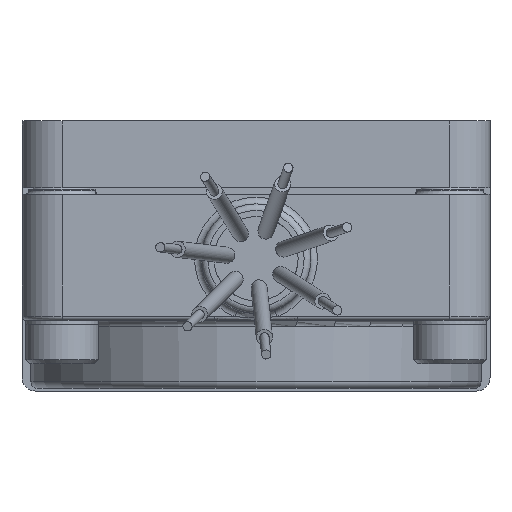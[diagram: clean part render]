
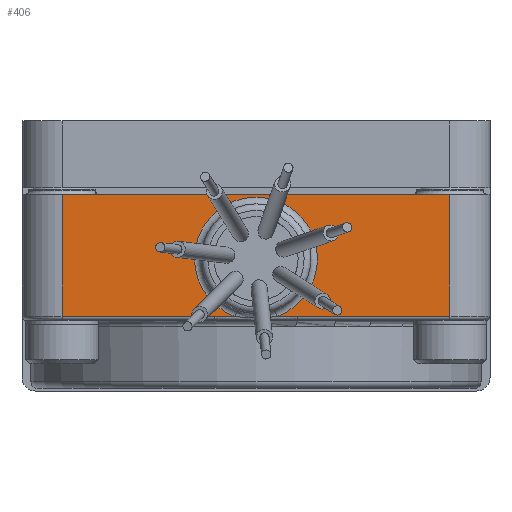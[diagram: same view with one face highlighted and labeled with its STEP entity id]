
A CAD part, front view. The second image highlights one B-rep face of the part: STEP entity #406.
In plain terms, the highlighted planar face has unit normal (0, -1, 0).
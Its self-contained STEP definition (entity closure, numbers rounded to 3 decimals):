
#406=ADVANCED_FACE('NONE',(#1032),#1033,.F.);
#1032=FACE_OUTER_BOUND('',#2222,.T.);
#1033=PLANE('',#2223);
#2222=EDGE_LOOP('',(#3635,#3636,#3637,#3638,#3639,#3640,#3641,#3642));
#2223=AXIS2_PLACEMENT_3D('',#3643,#3644,#3645);
#3635=ORIENTED_EDGE('',*,*,#5204,.T.);
#3636=ORIENTED_EDGE('',*,*,#5389,.T.);
#3637=ORIENTED_EDGE('',*,*,#5202,.T.);
#3638=ORIENTED_EDGE('',*,*,#5353,.T.);
#3639=ORIENTED_EDGE('',*,*,#5430,.T.);
#3640=ORIENTED_EDGE('',*,*,#5431,.F.);
#3641=ORIENTED_EDGE('',*,*,#5432,.T.);
#3642=ORIENTED_EDGE('',*,*,#5433,.T.);
#3643=CARTESIAN_POINT('',(17.5,-47.5,8.0));
#3644=DIRECTION('',(-0.0,1.0,0.0));
#3645=DIRECTION('',(1.0,0.0,0.0));
#5202=EDGE_CURVE('NONE',#5966,#5967,#5968,.T.);
#5204=EDGE_CURVE('NONE',#5971,#5969,#5972,.T.);
#5353=EDGE_CURVE('NONE',#5967,#6217,#6219,.T.);
#5389=EDGE_CURVE('NONE',#5969,#5966,#6270,.T.);
#5430=EDGE_CURVE('NONE',#6217,#6333,#6334,.T.);
#5431=EDGE_CURVE('NONE',#6335,#6333,#6336,.T.);
#5432=EDGE_CURVE('NONE',#6335,#6337,#6338,.T.);
#5433=EDGE_CURVE('NONE',#6337,#5971,#6339,.T.);
#5966=VERTEX_POINT('NONE',#7131);
#5967=VERTEX_POINT('NONE',#7132);
#5968=B_SPLINE_CURVE_WITH_KNOTS('',3,(#7133,#7134,#7135,#7136),.UNSPECIFIED.,.F.,.F.,(4,4),(0.005,0.006),.UNSPECIFIED.);
#5969=VERTEX_POINT('NONE',#7137);
#5971=VERTEX_POINT('NONE',#7149);
#5972=B_SPLINE_CURVE_WITH_KNOTS('',3,(#7150,#7151,#7152,#7153),.UNSPECIFIED.,.F.,.F.,(4,4),(0.0,0.002),.UNSPECIFIED.);
#6217=VERTEX_POINT('NONE',#7468);
#6219=LINE('',#7470,#7471);
#6270=CIRCLE('',#7531,4.6);
#6333=VERTEX_POINT('NONE',#7665);
#6334=LINE('',#7666,#7667);
#6335=VERTEX_POINT('NONE',#7668);
#6336=LINE('',#7669,#7670);
#6337=VERTEX_POINT('NONE',#7671);
#6338=LINE('',#7672,#7673);
#6339=LINE('',#7674,#7675);
#7131=CARTESIAN_POINT('',(1.556,-47.5,-1.129));
#7132=CARTESIAN_POINT('',(3.132,-47.5,-1.1));
#7133=CARTESIAN_POINT('',(1.556,-47.5,-1.129));
#7134=CARTESIAN_POINT('',(2.081,-47.5,-1.116));
#7135=CARTESIAN_POINT('',(2.607,-47.5,-1.1));
#7136=CARTESIAN_POINT('',(3.132,-47.5,-1.1));
#7137=CARTESIAN_POINT('',(-1.556,-47.5,-1.129));
#7149=CARTESIAN_POINT('',(-3.132,-47.5,-1.1));
#7150=CARTESIAN_POINT('',(-3.132,-47.5,-1.1));
#7151=CARTESIAN_POINT('',(-2.607,-47.5,-1.1));
#7152=CARTESIAN_POINT('',(-2.081,-47.5,-1.116));
#7153=CARTESIAN_POINT('',(-1.556,-47.5,-1.129));
#7468=CARTESIAN_POINT('',(14.5,-47.5,-1.1));
#7470=CARTESIAN_POINT('',(14.5,-47.5,-1.1));
#7471=VECTOR('',#8918,1.0);
#7531=AXIS2_PLACEMENT_3D('',#8979,#8980,#8981);
#7665=CARTESIAN_POINT('',(14.5,-47.5,8.0));
#7666=CARTESIAN_POINT('',(14.5,-47.5,8.0));
#7667=VECTOR('',#9032,1.0);
#7668=CARTESIAN_POINT('',(-14.5,-47.5,8.0));
#7669=CARTESIAN_POINT('',(17.5,-47.5,8.0));
#7670=VECTOR('',#9033,1.0);
#7671=CARTESIAN_POINT('',(-14.5,-47.5,-1.1));
#7672=CARTESIAN_POINT('',(-14.5,-47.5,8.0));
#7673=VECTOR('',#9034,1.0);
#7674=CARTESIAN_POINT('',(14.5,-47.5,-1.1));
#7675=VECTOR('',#9035,1.0);
#8918=DIRECTION('',(1.0,0.0,0.0));
#8979=CARTESIAN_POINT('',(0.,-47.5,3.2));
#8980=DIRECTION('',(0.0,1.0,0.0));
#8981=DIRECTION('',(0.0,0.0,-1.0));
#9032=DIRECTION('',(0.0,0.0,1.0));
#9033=DIRECTION('',(1.0,0.0,0.0));
#9034=DIRECTION('',(0.0,0.0,-1.0));
#9035=DIRECTION('',(1.0,0.0,0.0));
